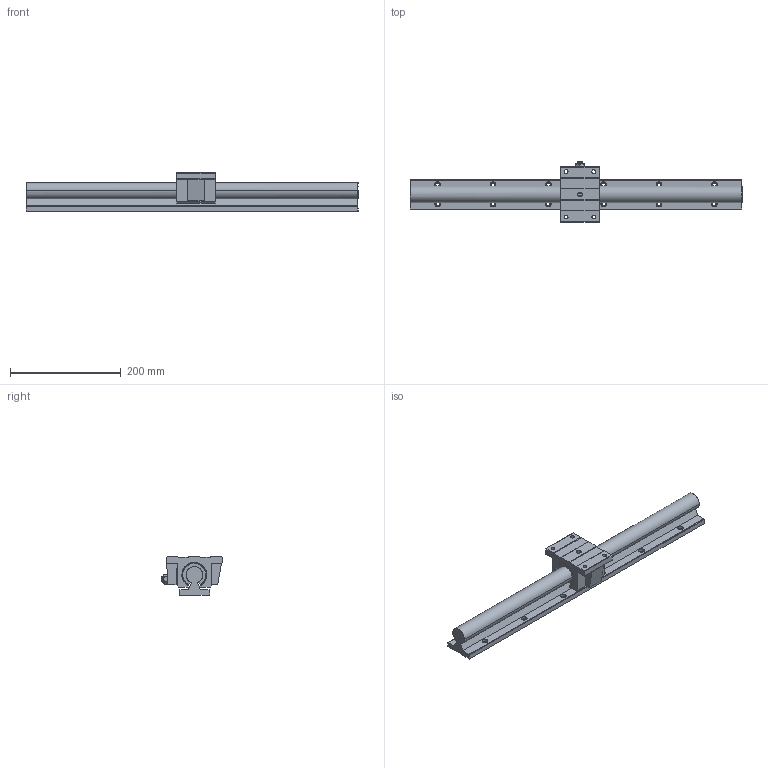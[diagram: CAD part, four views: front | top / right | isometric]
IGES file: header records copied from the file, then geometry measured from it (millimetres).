
Global section: file name: No Iges File Name specified; native system: AutoDesk Inventor R10; preprocessor: AutoDesk Inventor Iges Exporter R10; author: No Author specified; organization: No Organization specified; date: 20101221.092201; units: millimetre
Bounding box: 600 x 108.5 x 70 mm (x, y, z)
Surface area: 176937.4 mm2 (no closed solid volume)
Topology: 0 solids, 0 shells, 218 faces, 1494 edges, 1490 vertices
Faces by surface type: bspline 218
